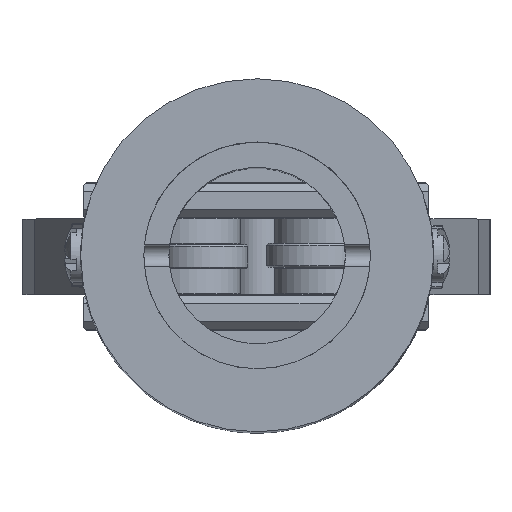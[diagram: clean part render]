
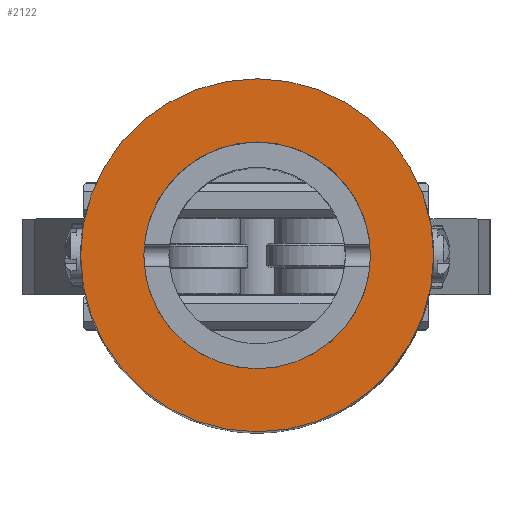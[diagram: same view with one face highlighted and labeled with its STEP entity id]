
A CAD part, top view. The second image highlights one B-rep face of the part: STEP entity #2122.
In plain terms, the highlighted planar face has unit normal (0, 0, 1) as drawn and (0, -1, 0) by its records, which use the part's own axes.
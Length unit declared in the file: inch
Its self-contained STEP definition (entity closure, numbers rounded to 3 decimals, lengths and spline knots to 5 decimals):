
#248 = CARTESIAN_POINT ( 'NONE',  ( 0., -0.00001, 0. ) ) ;
#373 = VERTEX_POINT ( 'NONE', #7850 ) ;
#976 = DIRECTION ( 'NONE',  ( 0., 0., -1. ) ) ;
#1130 = DIRECTION ( 'NONE',  ( 0., -1., 0. ) ) ;
#1286 = ORIENTED_EDGE ( 'NONE', *, *, #7274, .T. ) ;
#1553 = AXIS2_PLACEMENT_3D ( 'NONE', #248, #5377, #976 ) ;
#2048 = FACE_BOUND ( 'NONE', #6518, .T. ) ;
#2122 = ADVANCED_FACE ( 'NONE', ( #5946, #2048 ), #5492, .T. ) ;
#2767 = EDGE_LOOP ( 'NONE', ( #1286 ) ) ;
#3237 = VERTEX_POINT ( 'NONE', #4868 ) ;
#3727 = DIRECTION ( 'NONE',  ( 0., -1., 0. ) ) ;
#4868 = CARTESIAN_POINT ( 'NONE',  ( 0., -0.00001, -0.562 ) ) ;
#5373 = EDGE_CURVE ( 'NONE', #3237, #3237, #9457, .T. ) ;
#5377 = DIRECTION ( 'NONE',  ( 0., -1., 0. ) ) ;
#5492 = PLANE ( 'NONE',  #6990 ) ;
#5771 = AXIS2_PLACEMENT_3D ( 'NONE', #8098, #3727, #8860 ) ;
#5946 = FACE_OUTER_BOUND ( 'NONE', #2767, .T. ) ;
#6172 = ORIENTED_EDGE ( 'NONE', *, *, #5373, .F. ) ;
#6249 = DIRECTION ( 'NONE',  ( 0., 0., -1. ) ) ;
#6518 = EDGE_LOOP ( 'NONE', ( #6172 ) ) ;
#6990 = AXIS2_PLACEMENT_3D ( 'NONE', #9168, #1130, #6249 ) ;
#7274 = EDGE_CURVE ( 'NONE', #373, #373, #9215, .T. ) ;
#7850 = CARTESIAN_POINT ( 'NONE',  ( 0., -0.00001, -0.875 ) ) ;
#8098 = CARTESIAN_POINT ( 'NONE',  ( 0., -0.00001, 0. ) ) ;
#8860 = DIRECTION ( 'NONE',  ( 0., 0., -1. ) ) ;
#9168 = CARTESIAN_POINT ( 'NONE',  ( 0.875, -0.00001, 0. ) ) ;
#9215 = CIRCLE ( 'NONE', #1553, 0.875 ) ;
#9457 = CIRCLE ( 'NONE', #5771, 0.562 ) ;
